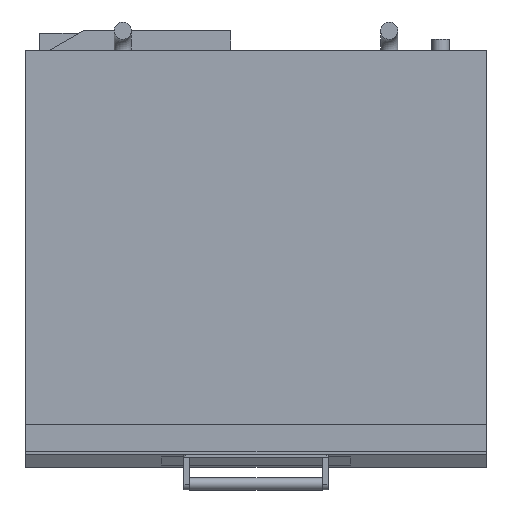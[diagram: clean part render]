
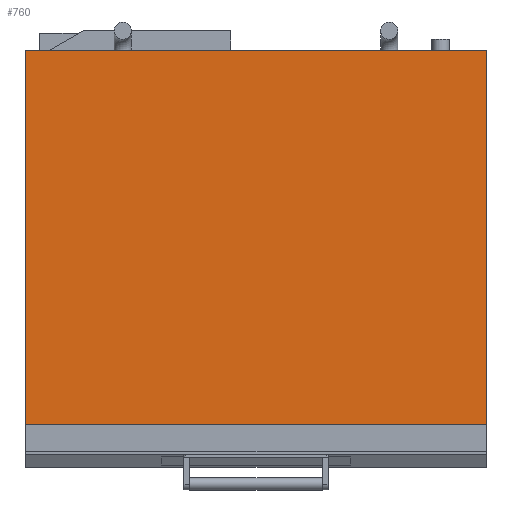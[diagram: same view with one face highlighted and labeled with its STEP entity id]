
A CAD part, top view. The second image highlights one B-rep face of the part: STEP entity #760.
In plain terms, the highlighted planar face has unit normal (0, 0, 1).
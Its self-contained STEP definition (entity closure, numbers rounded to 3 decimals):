
#760=ADVANCED_FACE('',(#1091),#916,.F.);
#916=PLANE('',#3809);
#1091=FACE_OUTER_BOUND('',#1347,.T.);
#1347=EDGE_LOOP('',(#2114,#2115,#2116,#2117));
#2114=ORIENTED_EDGE('',*,*,#2896,.T.);
#2115=ORIENTED_EDGE('',*,*,#2885,.F.);
#2116=ORIENTED_EDGE('',*,*,#2897,.F.);
#2117=ORIENTED_EDGE('',*,*,#2894,.T.);
#2480=VERTEX_POINT('',#5895);
#2483=VERTEX_POINT('',#5900);
#2490=VERTEX_POINT('',#5918);
#2491=VERTEX_POINT('',#5920);
#2885=EDGE_CURVE('',#2483,#2480,#3185,.T.);
#2894=EDGE_CURVE('',#2491,#2490,#3194,.T.);
#2896=EDGE_CURVE('',#2490,#2480,#3196,.T.);
#2897=EDGE_CURVE('',#2491,#2483,#3197,.T.);
#3185=LINE('',#5901,#3485);
#3194=LINE('',#5919,#3494);
#3196=LINE('',#5923,#3496);
#3197=LINE('',#5924,#3497);
#3485=VECTOR('',#4654,1.);
#3494=VECTOR('',#4667,1.);
#3496=VECTOR('',#4671,1.);
#3497=VECTOR('',#4672,1.);
#3809=AXIS2_PLACEMENT_3D('',#5925,#4673,#4674);
#4654=DIRECTION('',(1.,0.,0.));
#4667=DIRECTION('',(1.,0.,0.));
#4671=DIRECTION('',(0.,1.,0.));
#4672=DIRECTION('',(0.,1.,0.));
#4673=DIRECTION('',(0.,0.,-1.));
#4674=DIRECTION('',(1.,0.,0.));
#5895=CARTESIAN_POINT('',(817.299,551.025,281.175));
#5900=CARTESIAN_POINT('',(17.299,551.025,281.175));
#5901=CARTESIAN_POINT('',(17.299,551.025,281.175));
#5918=CARTESIAN_POINT('',(817.299,-98.375,281.175));
#5919=CARTESIAN_POINT('',(17.299,-98.375,281.175));
#5920=CARTESIAN_POINT('',(17.299,-98.375,281.175));
#5923=CARTESIAN_POINT('',(817.299,-98.375,281.175));
#5924=CARTESIAN_POINT('',(17.299,-98.375,281.175));
#5925=CARTESIAN_POINT('',(17.299,-98.375,281.175));
